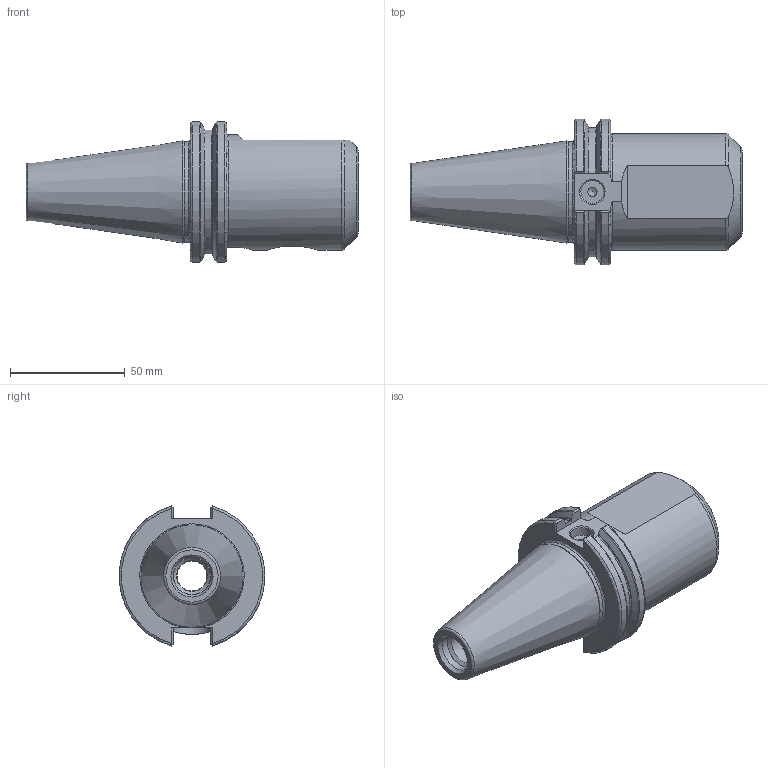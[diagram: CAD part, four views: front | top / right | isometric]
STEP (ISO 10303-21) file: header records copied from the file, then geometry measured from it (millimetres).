
FILE_DESCRIPTION(/* description */ (''),/* implementation_level */ '2;1');
FILE_NAME(/* name */ 'I:\00.2022最新版图纸\SLA---侧固式铣刀柄\侧固刀柄三维模型\CAT40-SLA25.4-76.2.stp',/* time_stamp */ '2022-07-20T10:46:48+08:00',/* author */ ('Administrator'),/* organization */ (''),/* preprocessor_version */ 'ST-DEVELOPER v18.1',/* originating_system */ 'Autodesk Inventor 2022',/* authorisation */ '');
FILE_SCHEMA (('AUTOMOTIVE_DESIGN { 1 0 10303 214 3 1 1 }'));
Length unit declared in the file: millimetre
Products named in the file (4): CAT40-SLA25.4-76; CAT40-SLA25.4-76.2; 3-4-16UNF-12.7; 1-2-20UNF-11.1125
Assembly tree (3 placements, depth 2):
  CAT40-SLA25.4-76
    CAT40-SLA25.4-76.2
    3-4-16UNF-12.7
    1-2-20UNF-11.1125
Bounding box: 144.45 x 63.27 x 60.92 mm (x, y, z)
Volume: 172268.5 mm3; surface area: 36499.9 mm2
Topology: 3 solids, 3 shells, 143 faces, 360 edges, 230 vertices
Faces by surface type: plane 56, cone 27, cylinder 25, torus 19, bspline 16
Full cylindrical faces by diameter (mm): 5 x2, 6 x1, 9.5 x1, 10 x1, 11.328 x1, 12.7 x1, 13 x1, 13.2 x1, 13.5 x1, 16.281 x1, 17.4 x1, 19.05 x1, 19.5 x1, 25.4 x1, 26.4 x1, 43.85 x1
Entity records: 5289 total; most frequent: CARTESIAN_POINT 1887, ORIENTED_EDGE 710, DIRECTION 637, EDGE_CURVE 355, AXIS2_PLACEMENT_3D 240, VERTEX_POINT 230, EDGE_LOOP 161, LINE 157
